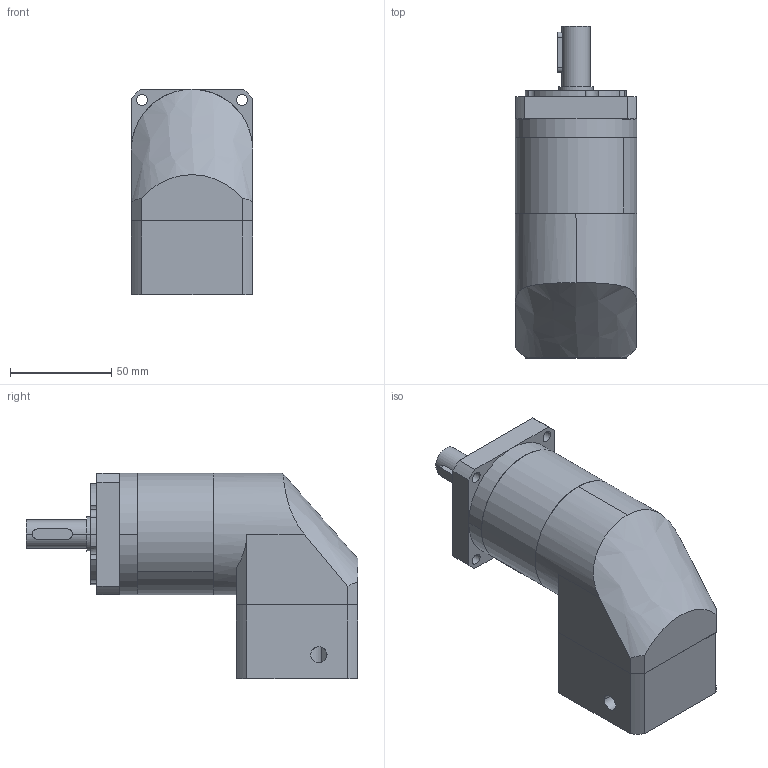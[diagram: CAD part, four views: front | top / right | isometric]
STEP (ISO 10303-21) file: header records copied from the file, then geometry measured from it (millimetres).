
FILE_DESCRIPTION (( 'STEP AP203' ), '1' );
FILE_NAME ('PVFA060-L2-8-38.1-66.STEP', '2022-07-27T03:25:57', ( 'Windows User' ), ( 'P R C' ), 'SwSTEP 2.0', 'SolidWorks 2016', '' );
FILE_SCHEMA (( 'CONFIG_CONTROL_DESIGN' ));
Length unit declared in the file: millimetre
Products named in the file (9): PVFA060-L2-8-38.1-66; PVFA060 奻屳唳_梓袧; PVFA060-薊粣-8; 双列角接触球轴承 5203_2; PVFA060-蟀諉啣-38-M4-66.7; 囀鞠褒蹟佪-M5℅16; 邧埴瑩  5x5x20; PVFA060-眊极_揤翉; PVFA060 內齿圈_二级内齿圈
Assembly tree (8 placements, depth 2):
  PVFA060-L2-8-38.1-66
    PVFA060 奻屳唳_梓袧
    PVFA060-薊粣-8
    双列角接触球轴承 5203_2
    PVFA060-蟀諉啣-38-M4-66.7
    囀鞠褒蹟佪-M5℅16
    邧埴瑩  5x5x20
    PVFA060-眊极_揤翉
    PVFA060 內齿圈_二级内齿圈
Bounding box: 60 x 164 x 101.5 mm (x, y, z)
Volume: 474293.5 mm3; surface area: 97463.8 mm2
Topology: 8 solids, 8 shells, 1094 faces, 3093 edges, 1998 vertices
Faces by surface type: plane 559, bspline 327, cylinder 178, cone 30
Entity records: 47955 total; most frequent: CARTESIAN_POINT 20981, ORIENTED_EDGE 5990, DIRECTION 4474, EDGE_CURVE 2995, VERTEX_POINT 1998, LINE 1652, VECTOR 1652, AXIS2_PLACEMENT_3D 1411
